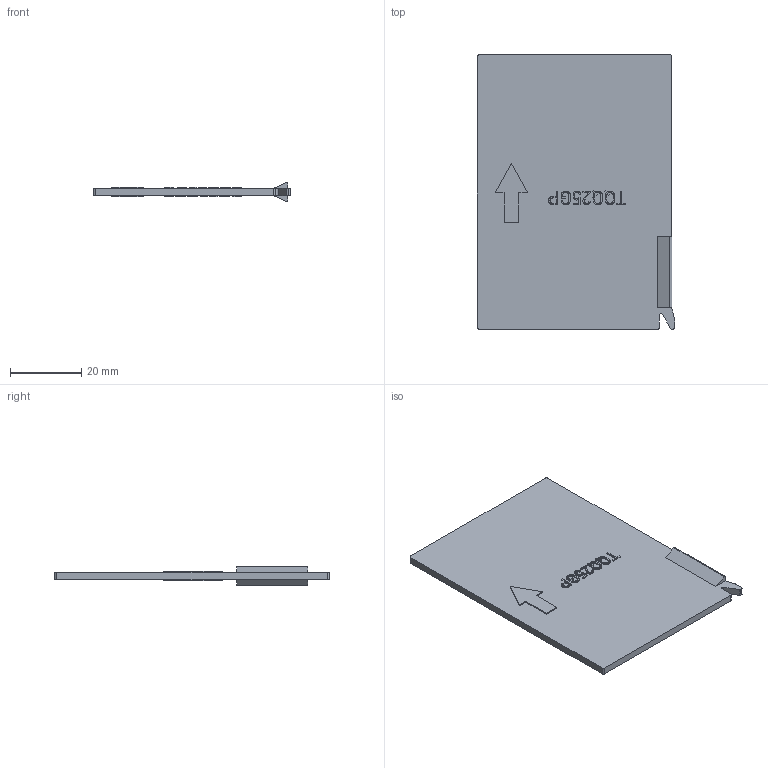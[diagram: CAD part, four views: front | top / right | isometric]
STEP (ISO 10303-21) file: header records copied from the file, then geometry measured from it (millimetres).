
FILE_DESCRIPTION((''),'2;1');
FILE_NAME('U2_INTERPOLE_BARRIER','2018-06-04T',('HHI'),(''),'PRO/ENGINEER BY PARAMETRIC TECHNOLOGY CORPORATION, 2012453','PRO/ENGINEER BY PARAMETRIC TECHNOLOGY CORPORATION, 2012453','');
FILE_SCHEMA(('CONFIG_CONTROL_DESIGN'));
Length unit declared in the file: millimetre
Products named in the file (1): U2_INTERPOLE_BARRIER
Bounding box: 55.3 x 77 x 5.2 mm (x, y, z)
Volume: 8579.5 mm3; surface area: 9109.7 mm2
Topology: 1 solids, 1 shells, 203 faces, 535 edges, 356 vertices
Faces by surface type: extrusion 124, plane 69, cylinder 10
Entity records: 7539 total; most frequent: CARTESIAN_POINT 2938, ORIENTED_EDGE 1070, DIRECTION 589, EDGE_CURVE 535, VECTOR 391, B_SPLINE_CURVE_WITH_KNOTS 372, VERTEX_POINT 356, LINE 267
